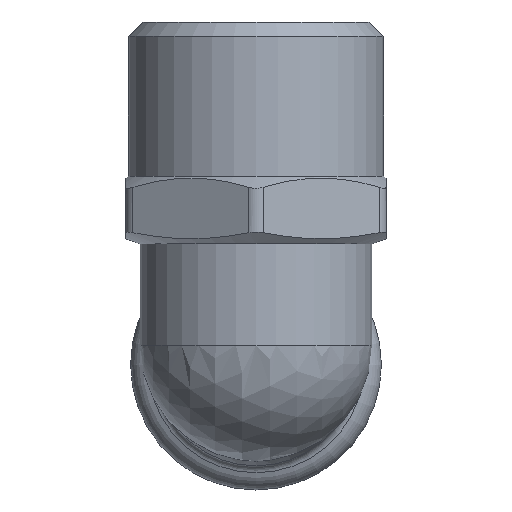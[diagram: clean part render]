
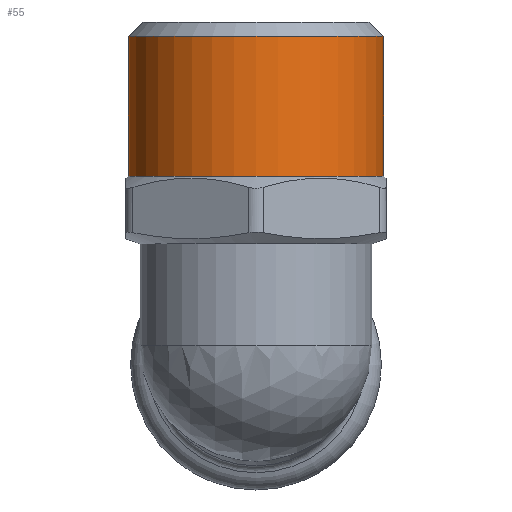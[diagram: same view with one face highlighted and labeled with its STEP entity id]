
A CAD part, front view. The second image highlights one B-rep face of the part: STEP entity #55.
In plain terms, the highlighted cylindrical face has radius 13.22 mm (diameter 26.441 mm), a full revolution.
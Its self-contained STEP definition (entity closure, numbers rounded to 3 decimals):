
#55=ADVANCED_FACE('',(#98,#100),#102,.T.);
#98=FACE_OUTER_BOUND('',#99,.T.);
#99=EDGE_LOOP('',(#316));
#100=FACE_OUTER_BOUND('',#101,.T.);
#101=EDGE_LOOP('',(#317));
#102=CYLINDRICAL_SURFACE('',#103,13.221);
#103=AXIS2_PLACEMENT_3D('',#104,#105,#106);
#104=CARTESIAN_POINT('',(0.,-47.,19.5));
#105=DIRECTION('',(0.,0.,1.));
#106=DIRECTION('',(0.,1.,0.));
#316=ORIENTED_EDGE('',*,*,#432,.F.);
#317=ORIENTED_EDGE('',*,*,#433,.T.);
#432=EDGE_CURVE('',#492,#492,#493,.T.);
#433=EDGE_CURVE('',#494,#494,#495,.T.);
#492=VERTEX_POINT('',#600);
#493=CIRCLE('',#601,13.221);
#494=VERTEX_POINT('',#605);
#495=CIRCLE('',#606,13.221);
#600=CARTESIAN_POINT('',(0.,-33.78,34.));
#601=AXIS2_PLACEMENT_3D('',#602,#603,#604);
#602=CARTESIAN_POINT('',(0.,-47.,34.));
#603=DIRECTION('',(0.,0.,1.));
#604=DIRECTION('',(0.,1.,0.));
#605=CARTESIAN_POINT('',(0.,-33.78,19.5));
#606=AXIS2_PLACEMENT_3D('',#607,#608,#609);
#607=CARTESIAN_POINT('',(0.,-47.,19.5));
#608=DIRECTION('',(0.,0.,1.));
#609=DIRECTION('',(0.,1.,0.));
